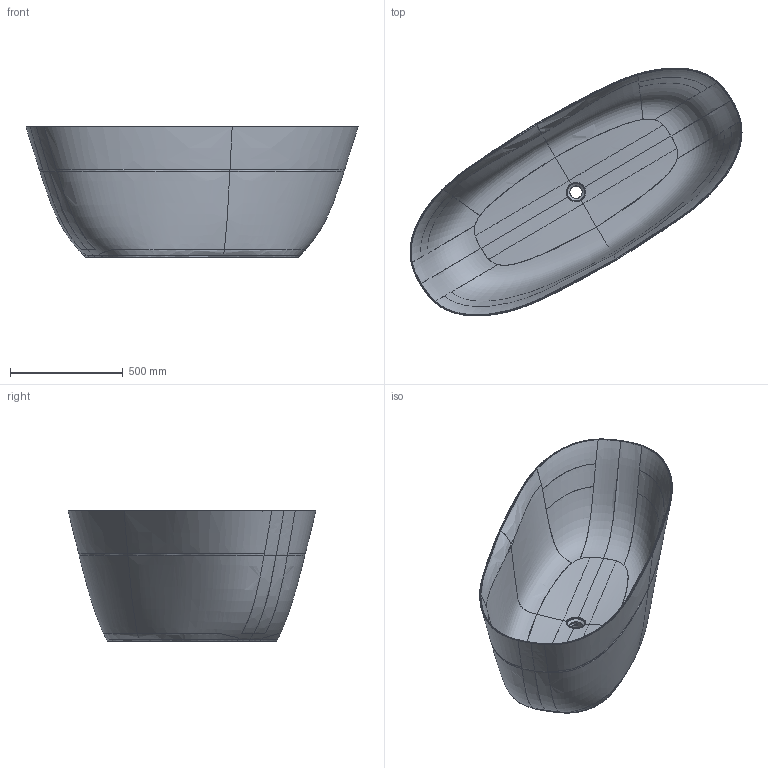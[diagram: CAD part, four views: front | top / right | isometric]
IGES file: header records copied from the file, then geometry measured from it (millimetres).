
Global section: file name: D:\Desktop\GIOVANNI\SCHEDE PRODOTTO\VASCHE\VASCHE FREESTANDING\CAMILLA\3D\CAMILLA.igs; native system: Rhinoceros ( Jan 17 2018 ); preprocessor: Trout Lake IGES 012 Jan 17 2018; date: 230530.151215; units: millimetre
Bounding box: 1470.03 x 1098.08 x 580 mm (x, y, z)
Surface area: 5035039.3 mm2 (no closed solid volume)
Topology: 0 solids, 0 shells, 304 faces, 3688 edges, 3677 vertices
Faces by surface type: bspline 304
